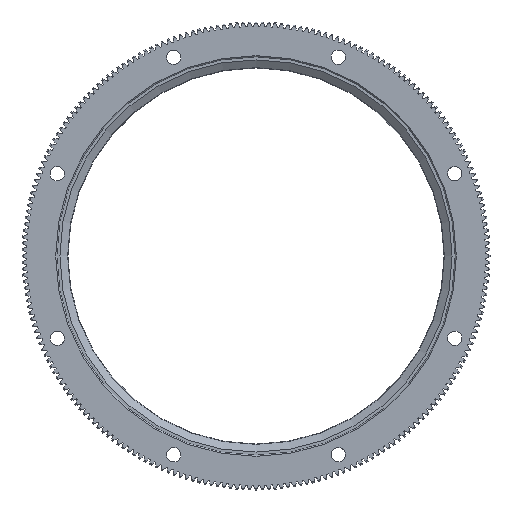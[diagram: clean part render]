
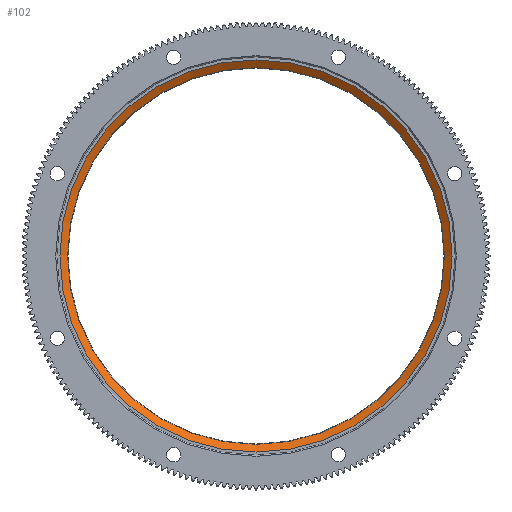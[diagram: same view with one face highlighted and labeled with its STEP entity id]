
A CAD part, front view. The second image highlights one B-rep face of the part: STEP entity #102.
In plain terms, the highlighted conical face has half-angle 55 degrees and reference radius 64.921 mm.
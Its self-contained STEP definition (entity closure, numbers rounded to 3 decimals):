
#102=ADVANCED_FACE('',(#1539,#1540),#1541,.F.);
#1539=FACE_OUTER_BOUND('',#4393,.T.);
#1540=FACE_BOUND('',#4394,.T.);
#1541=CONICAL_SURFACE('',#4395,64.921,0.96);
#4393=EDGE_LOOP('',(#9543));
#4394=EDGE_LOOP('',(#9544));
#4395=AXIS2_PLACEMENT_3D('',#9545,#9546,#9547);
#9543=ORIENTED_EDGE('',*,*,#22006,.T.);
#9544=ORIENTED_EDGE('',*,*,#22007,.F.);
#9545=CARTESIAN_POINT('',(0.0,7.576,0.0));
#9546=DIRECTION('',(0.0,-1.0,-0.0));
#9547=DIRECTION('',(0.0,0.0,-1.0));
#22006=EDGE_CURVE('',#28457,#28457,#28458,.T.);
#22007=EDGE_CURVE('',#28459,#28459,#28460,.T.);
#28457=VERTEX_POINT('',#37203);
#28458=CIRCLE('',#37204,67.457);
#28459=VERTEX_POINT('',#37205);
#28460=CIRCLE('',#37206,64.921);
#37203=CARTESIAN_POINT('',(0.0,5.8,-67.457));
#37204=AXIS2_PLACEMENT_3D('',#45291,#45292,#45293);
#37205=CARTESIAN_POINT('',(0.0,7.576,-64.921));
#37206=AXIS2_PLACEMENT_3D('',#45294,#45295,#45296);
#45291=CARTESIAN_POINT('',(0.0,5.8,0.0));
#45292=DIRECTION('',(0.0,-1.0,0.0));
#45293=DIRECTION('',(0.0,0.0,-1.0));
#45294=CARTESIAN_POINT('',(0.0,7.576,0.0));
#45295=DIRECTION('',(0.0,-1.0,0.0));
#45296=DIRECTION('',(0.0,0.0,-1.0));
